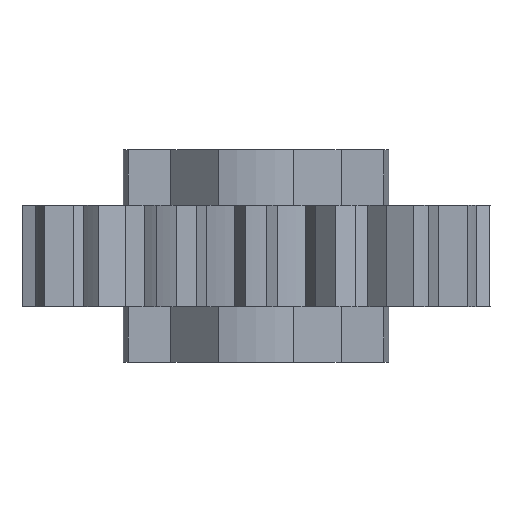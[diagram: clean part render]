
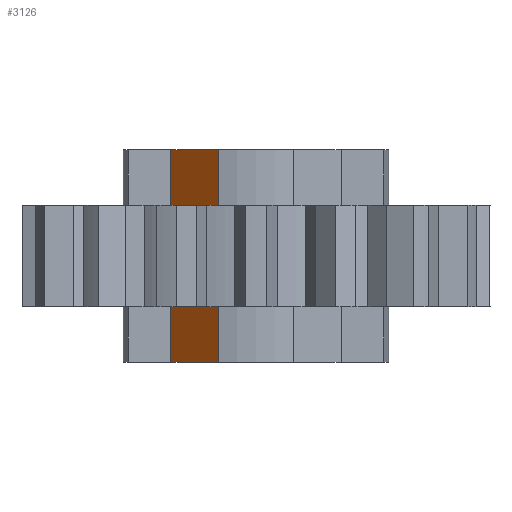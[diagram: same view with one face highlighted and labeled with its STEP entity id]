
A CAD part, left-side view. The second image highlights one B-rep face of the part: STEP entity #3126.
In plain terms, the highlighted planar face has unit normal (-0.707, 0.707, 0).
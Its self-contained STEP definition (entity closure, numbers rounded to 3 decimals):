
#33=PLANE('',#3423);
#146=LINE('',#4611,#498);
#174=LINE('',#4720,#526);
#231=LINE('',#4878,#583);
#235=LINE('',#4889,#587);
#498=VECTOR('',#3671,1000.);
#526=VECTOR('',#3753,1000.);
#583=VECTOR('',#3884,1000.);
#587=VECTOR('',#3896,1000.);
#1304=ORIENTED_EDGE('',*,*,#1895,.T.);
#1305=ORIENTED_EDGE('',*,*,#1979,.F.);
#1306=ORIENTED_EDGE('',*,*,#1841,.F.);
#1307=ORIENTED_EDGE('',*,*,#1985,.T.);
#1841=EDGE_CURVE('',#2321,#2322,#146,.T.);
#1895=EDGE_CURVE('',#2376,#2375,#174,.T.);
#1979=EDGE_CURVE('',#2322,#2375,#231,.T.);
#1985=EDGE_CURVE('',#2321,#2376,#235,.T.);
#2321=VERTEX_POINT('',#4610);
#2322=VERTEX_POINT('',#4612);
#2375=VERTEX_POINT('',#4719);
#2376=VERTEX_POINT('',#4721);
#2746=EDGE_LOOP('',(#1304,#1305,#1306,#1307));
#2906=FACE_BOUND('',#2746,.T.);
#3126=ADVANCED_FACE('',(#2906),#33,.F.);
#3423=AXIS2_PLACEMENT_3D('',#5206,#4131,#4132);
#3671=DIRECTION('',(-0.707,-0.707,0.));
#3753=DIRECTION('',(-0.707,-0.707,0.));
#3884=DIRECTION('',(0.,0.,-1.));
#3896=DIRECTION('',(0.,0.,-1.));
#4131=DIRECTION('',(0.707,-0.707,0.));
#4132=DIRECTION('',(0.707,0.707,0.));
#4610=CARTESIAN_POINT('',(-1.4,3.2,4.));
#4611=CARTESIAN_POINT('',(-3.2,1.4,4.));
#4612=CARTESIAN_POINT('',(-3.2,1.4,4.));
#4719=CARTESIAN_POINT('',(-3.2,1.4,-4.));
#4720=CARTESIAN_POINT('',(-3.2,1.4,-4.));
#4721=CARTESIAN_POINT('',(-1.4,3.2,-4.));
#4878=CARTESIAN_POINT('',(-3.2,1.4,4.));
#4889=CARTESIAN_POINT('',(-1.4,3.2,4.));
#5206=CARTESIAN_POINT('',(-3.2,1.4,4.));
